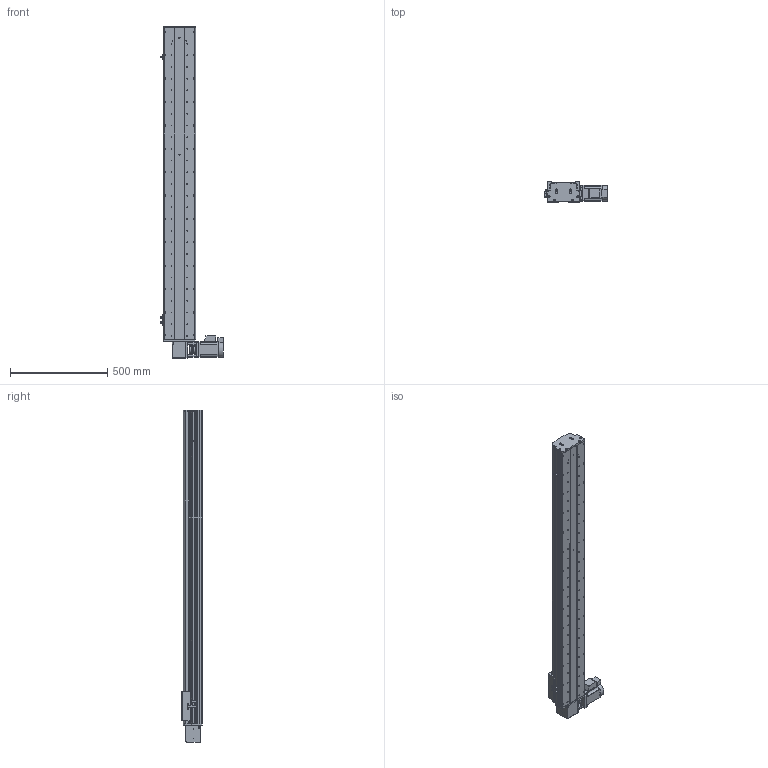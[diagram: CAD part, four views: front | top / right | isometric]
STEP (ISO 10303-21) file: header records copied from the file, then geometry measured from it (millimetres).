
FILE_DESCRIPTION (( 'STEP AP214' ), '1' );
FILE_NAME ('KSD165B-S1350-MRT-CM.STEP', '2017-08-14T06:08:50', ( '微软用户' ), ( '微软中国' ), 'SwSTEP 2.0', 'SolidWorks 2014', '' );
FILE_SCHEMA (( 'AUTOMOTIVE_DESIGN' ));
Length unit declared in the file: millimetre
Products named in the file (16): U倰嫖萇假蚾璃; U倰嫖萇EEㄜSX672; 覜茼え68遵圉猾敕; KSD165模组-同步带-防撞垫2; KSD165模组同步带-防撞垫1; KSD165耀郪-ヶ傷啣1-肮祭湍; KSD165模组-后端板1-同步带; 130宽马达安装板1-带电机座750W（1）; KSD165模组-同步带滑动座-最新版; KSD165B-S1350-MRT-CM; KSD165模组-同步带防尘盖1-1350行程; KSD165模组同步带底板-1350行程; 拸秶雄ん750W侜督萇儂; 165宽安装板同步带带电机座750W; 165宽马达安装板同步带右; C39ㄜ1419WP
Assembly tree (19 placements, depth 2):
  KSD165B-S1350-MRT-CM
    KSD165模组-同步带滑动座-最新版
    130宽马达安装板1-带电机座750W（1）
    KSD165模组-后端板1-同步带
    KSD165耀郪-ヶ傷啣1-肮祭湍
    KSD165模组同步带-防撞垫1
    KSD165模组-同步带-防撞垫2
    覜茼え68遵圉猾敕
    U倰嫖萇EEㄜSX672  x3
    U倰嫖萇假蚾璃  x3
    C39ㄜ1419WP
    165宽马达安装板同步带右
    165宽安装板同步带带电机座750W
    拸秶雄ん750W侜督萇儂
    KSD165模组同步带底板-1350行程
    KSD165模组-同步带防尘盖1-1350行程
Bounding box: 321.2 x 104 x 1704 mm (x, y, z)
Volume: 9464325.6 mm3; surface area: 2153279.5 mm2
Topology: 20 solids, 20 shells, 1568 faces, 4380 edges, 2841 vertices
Faces by surface type: cylinder 887, plane 587, cone 94
Entity records: 50703 total; most frequent: CARTESIAN_POINT 10613, DIRECTION 7846, ORIENTED_EDGE 7412, EDGE_CURVE 3706, AXIS2_PLACEMENT_3D 3002, VERTEX_POINT 2433, VECTOR 1842, LINE 1842
